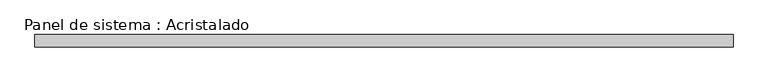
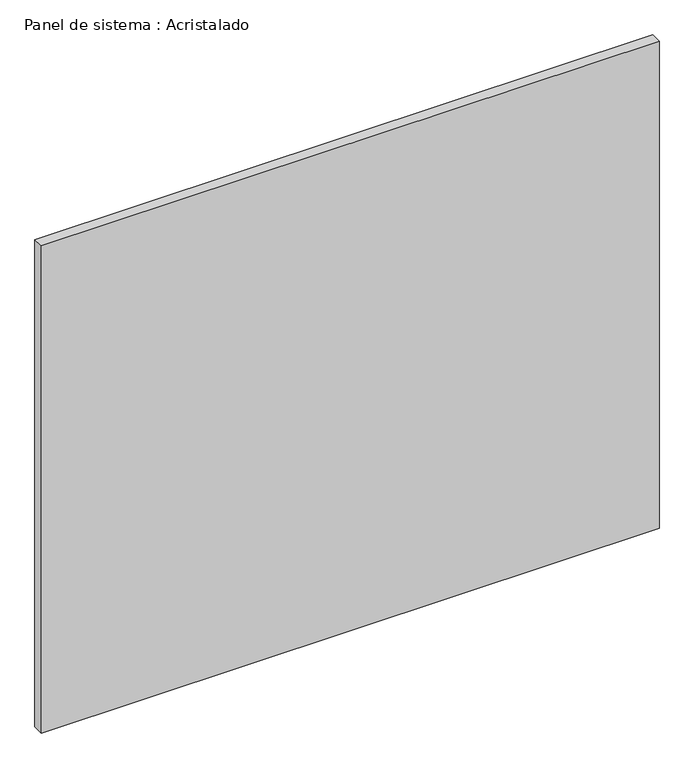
"""IFC4 building model written with IfcOpenShell, lengths in millimetres: plate geometry, Panel de sistema : Acristalado."""

from ifc_helpers import new_model, si_unit, origin, origin_with_axes, place, context, project, spatial, polyline, outline, extrude, source, transform, mapped, element, save


def panel_de_sistema_acristalado_23335e76(model_context):
    return source(origin(), model_context, "Body", "SweptSolid", [
        extrude(outline(polyline([(567.5, -10.0), (-567.5, -10.0), (-567.5, 10.0), (567.5, 10.0), (567.5, -10.0)])), origin_with_axes(), (0.0, 0.0, 1.0), 946.3856213),
    ])


if __name__ == "__main__":
    model = new_model("IFC4")
    model_context = context("Model", 3, world=origin())
    ifc_project = project(units=[si_unit("LENGTHUNIT", "METRE", prefix="MILLI")], contexts=[model_context])
    site = spatial("IfcSite", under=ifc_project)
    building = spatial("IfcBuilding", under=site)
    placement = place(None, origin())
    panel_de_sistema_acristalado_shape = panel_de_sistema_acristalado_23335e76(model_context)
    element("IfcPlate", 1, ObjectType="Panel de sistema : Acristalado", at=placement, inside=building, context=model_context, shape_type="MappedRepresentation", body=[
        mapped(panel_de_sistema_acristalado_shape, transform((0.0, 0.0, 0.0), x_axis=(1.0, 0.0, 0.0), y_axis=(0.0, 1.0, 0.0), z_axis=(0.0, 0.0, 1.0))),
    ])
    save(model, "model.ifc")
